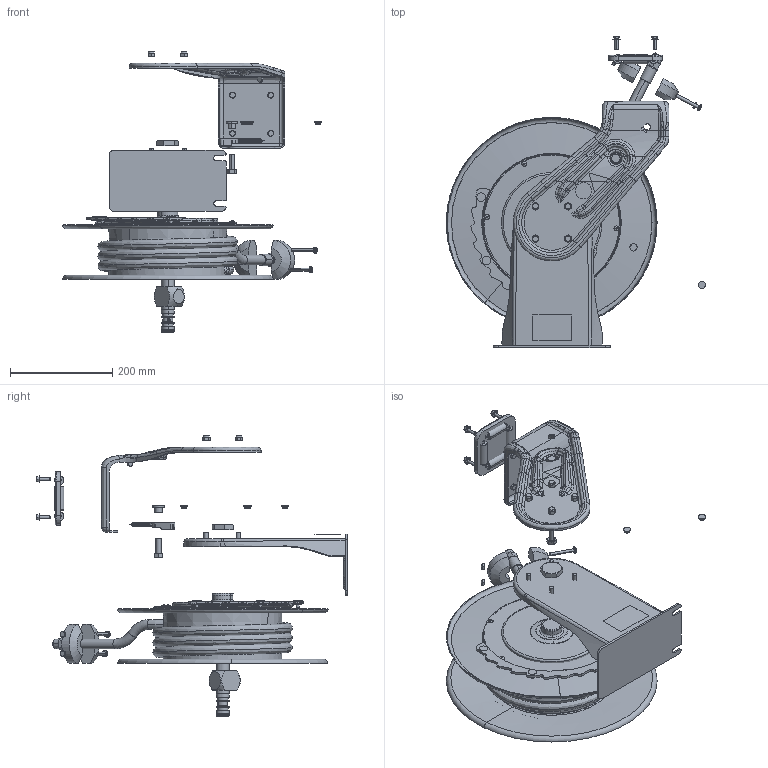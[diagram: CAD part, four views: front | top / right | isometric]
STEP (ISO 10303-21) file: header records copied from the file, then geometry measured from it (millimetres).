
FILE_DESCRIPTION((''),'2;1');
FILE_NAME('HPH23A-EN-Z_PRT','2020-01-01T12:06:37',('qusrh3'),(''),'CREO PARAMETRIC BY PTC INC, 2019030','CREO PARAMETRIC BY PTC INC, 2019030','');
FILE_SCHEMA(('CONFIG_CONTROL_DESIGN'));
Products named in the file (1): HPH23A-EN-Z_PRT
Bounding box: 506.75 x 608.19 x 548.78 mm (x, y, z)
Surface area: 1433605.2 mm2 (no closed solid volume)
Topology: 0 solids, 132 shells, 1652 faces, 4043 edges, 2470 vertices
Faces by surface type: plane 378, cone 366, bspline 356, cylinder 327, torus 200, sphere 23, extrusion 2
Entity records: 77032 total; most frequent: CARTESIAN_POINT 41102, ORIENTED_EDGE 7480, DIRECTION 7223, EDGE_CURVE 4031, AXIS2_PLACEMENT_3D 3030, VERTEX_POINT 2470, CIRCLE 1736, EDGE_LOOP 1652
